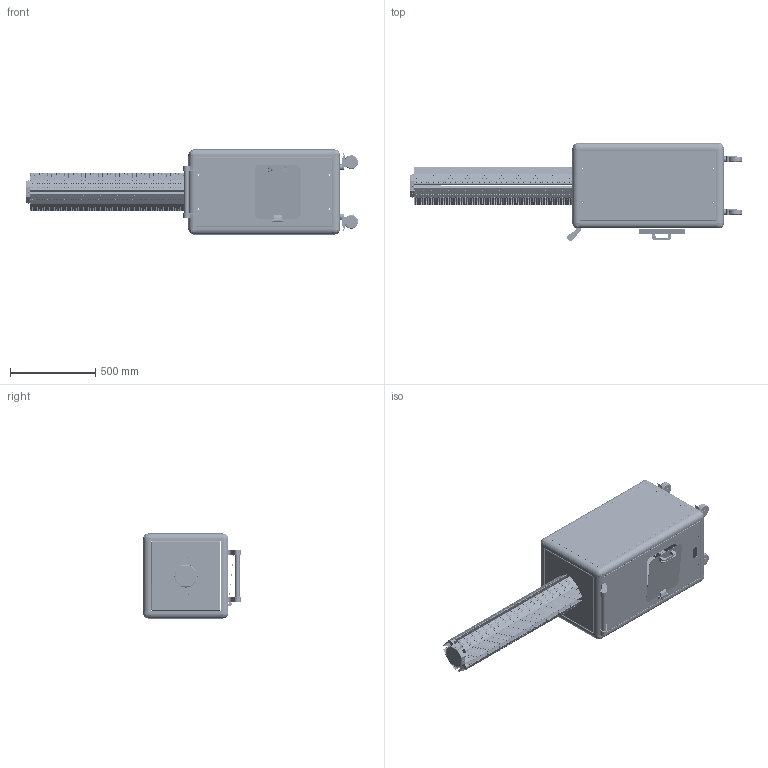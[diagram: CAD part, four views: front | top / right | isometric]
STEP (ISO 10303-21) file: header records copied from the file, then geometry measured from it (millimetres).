
FILE_DESCRIPTION (( 'STEP AP214' ), '1' );
FILE_NAME ('LAMP.SANIMOVE-BASIC.STEP', '2020-11-16T07:40:12', ( '' ), ( '' ), 'SwSTEP 2.0', 'SolidWorks 2021', '' );
FILE_SCHEMA (( 'AUTOMOTIVE_DESIGN' ));
Length unit declared in the file: millimetre
Products named in the file (145): MEC434.20.00 Coperchio sca; R9^DDS1103_3D(2)_DDS1103_3D; C14^DDS1103_3D(2)_DDS1103_3D; DL1_1^DDS1103_3D(2)_DDS1103_3D; MEC434.21.00 Supporto; R2^DDS1103_3D(2)_DDS1103_3D; LAMP.SANIMOVE-BASIC; R1^DDS1103_3D(2)_DDS1103_3D; R36^DDS1103_3D(2)_DDS1103_3D; R32^DDS1103_3D(2)_DDS1103_3D; R26^DDS1103_3D(2)_DDS1103_3D; Cerniera1 A1453625462; R12^DDS1103_3D(2)_DDS1103_3D; C11^DDS1103_3D(2)_DDS1103_3D; C27^DDS1103_3D(2)_DDS1103_3D; D1^DDS1103_3D(2)_DDS1103_3D; MEC434.02.00 Base; VARRB800_050W80L1000T450H1200P^DDS1103_3D(2)_DDS1103_3D; MEC434.18.00 Pannello posteriore; C17^DDS1103_3D(2)_DDS1103_3D; J1_7^DDS1103_3D(2)_DDS1103_3D; D3^DDS1103_3D(2)_DDS1103_3D; C2^DDS1103_3D(2)_DDS1103_3D; R37^DDS1103_3D(2)_DDS1103_3D; R6^DDS1103_3D(2)_DDS1103_3D; U3^DDS1103_3D(2)_DDS1103_3D; D5^DDS1103_3D(2)_DDS1103_3D; MEC435 LAMP.APPL-NEON-UV-01WSB; R29^DDS1103_3D(2)_DDS1103_3D; J1_2^DDS1103_3D(2)_DDS1103_3D; R31^DDS1103_3D(2)_DDS1103_3D; Profilo 45x45 Raggiato1 ; R25^DDS1103_3D(2)_DDS1103_3D; R24^DDS1103_3D(2)_DDS1103_3D; R20^DDS1103_3D(2)_DDS1103_3D; Giunto di collegamento a 90訌; C26^DDS1103_3D(2)_DDS1103_3D; 360; M4194690877---^M4194690877(2)_Attacco testa 690877; DL2^DDS1103_3D(2)_DDS1103_3D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
Assembly tree (182 placements, depth 4):
  LAMP.SANIMOVE-BASIC
    Profilo 45x45 Raggiato1   x8
    Profilo 45x45 Raggiato2   x4
    Giunto di collegamento a 90訌  x8
    Ruota 686392  x4
    MEC434.02.00 Base
    Attacco testa 690877  x2
      M4194690877(2)^Attacco testa 690877
        M4194690877---^M4194690877(2)_Attacco testa 690877
        82174^M4194690877(2)_Attacco testa 690877
    Maniglia
    MEC434.14.00 Copertura Basic
    DDS1103_3D
      DDS1103_3D(2)^DDS1103_3D
        BOARD^DDS1103_3D(2)_DDS1103_3D
        Top Elec^DDS1103_3D(2)_DDS1103_3D
        R33^DDS1103_3D(2)_DDS1103_3D
        C5^DDS1103_3D(2)_DDS1103_3D
        D1^DDS1103_3D(2)_DDS1103_3D
        R3^DDS1103_3D(2)_DDS1103_3D
        FIX2^DDS1103_3D(2)_DDS1103_3D
        VARRB800_050W80L1000T450H1200P^DDS1103_3D(2)_DDS1103_3D  x2
        C4^DDS1103_3D(2)_DDS1103_3D
        R36^DDS1103_3D(2)_DDS1103_3D
        D6^DDS1103_3D(2)_DDS1103_3D
        C9^DDS1103_3D(2)_DDS1103_3D
        J1^DDS1103_3D(2)_DDS1103_3D
        J1_1^DDS1103_3D(2)_DDS1103_3D
        J1_2^DDS1103_3D(2)_DDS1103_3D
        J1_3^DDS1103_3D(2)_DDS1103_3D
        J1_4^DDS1103_3D(2)_DDS1103_3D
        J1_5^DDS1103_3D(2)_DDS1103_3D
        J1_6^DDS1103_3D(2)_DDS1103_3D
        J1_7^DDS1103_3D(2)_DDS1103_3D
        J1_8^DDS1103_3D(2)_DDS1103_3D
        J1_9^DDS1103_3D(2)_DDS1103_3D
        J1_10^DDS1103_3D(2)_DDS1103_3D
        J1_11^DDS1103_3D(2)_DDS1103_3D
        U6^DDS1103_3D(2)_DDS1103_3D
        TF1^DDS1103_3D(2)_DDS1103_3D
        C8^DDS1103_3D(2)_DDS1103_3D
        IND1^DDS1103_3D(2)_DDS1103_3D
        R12^DDS1103_3D(2)_DDS1103_3D
        L1^DDS1103_3D(2)_DDS1103_3D
        U5^DDS1103_3D(2)_DDS1103_3D
        R37^DDS1103_3D(2)_DDS1103_3D
        K1^DDS1103_3D(2)_DDS1103_3D
        FIX1^DDS1103_3D(2)_DDS1103_3D
        C30^DDS1103_3D(2)_DDS1103_3D
        C27^DDS1103_3D(2)_DDS1103_3D
        D2^DDS1103_3D(2)_DDS1103_3D
        U3^DDS1103_3D(2)_DDS1103_3D
        C26^DDS1103_3D(2)_DDS1103_3D
        C24^DDS1103_3D(2)_DDS1103_3D
        C15^DDS1103_3D(2)_DDS1103_3D
        C13^DDS1103_3D(2)_DDS1103_3D
        L2^DDS1103_3D(2)_DDS1103_3D
        varistore_s14k460_d15.5x6.4_p7.5^DDS1103_3D(2)_DDS1103_3D
        IND2^DDS1103_3D(2)_DDS1103_3D
        R28^DDS1103_3D(2)_DDS1103_3D
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Bounding box: 1952 x 573 x 500 mm (x, y, z)
Volume: 13366462.9 mm3; surface area: 11304776.9 mm2
Topology: 485 solids, 507 shells, 24137 faces, 71618 edges, 47185 vertices
Faces by surface type: cylinder 15818, plane 7842, bspline 244, torus 116, sphere 63, cone 54
Entity records: 408913 total; most frequent: CARTESIAN_POINT 96971, ORIENTED_EDGE 59508, DIRECTION 59452, EDGE_CURVE 29802, AXIS2_PLACEMENT_3D 20868, VERTEX_POINT 19552, LINE 17716, VECTOR 17716
